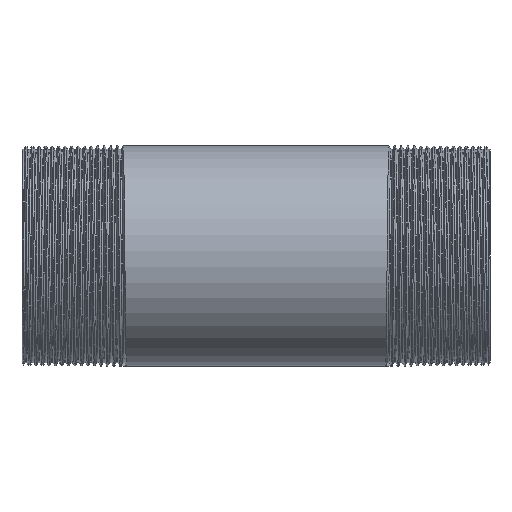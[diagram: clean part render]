
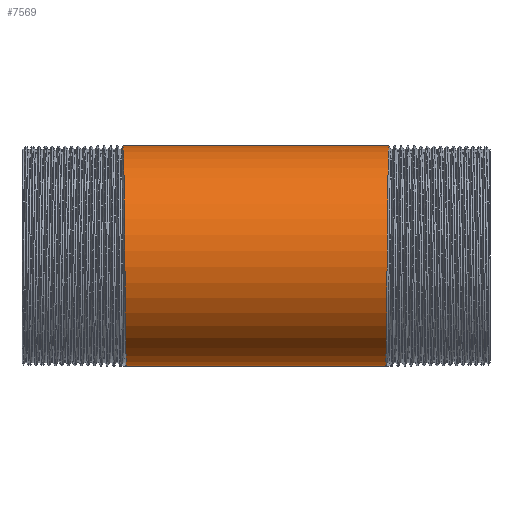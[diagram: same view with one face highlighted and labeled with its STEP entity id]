
A CAD part, front view. The second image highlights one B-rep face of the part: STEP entity #7569.
In plain terms, the highlighted cylindrical face has radius 21.2 mm (diameter 42.4 mm), a partial arc.
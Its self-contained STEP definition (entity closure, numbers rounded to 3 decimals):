
#39 = EDGE_CURVE ( 'NONE', #2132, #5383, #5080, .T. ) ;
#184 = CARTESIAN_POINT ( 'NONE',  ( -25.141, -21.2, -8.781 ) ) ;
#560 = VECTOR ( 'NONE', #9382, 1000. ) ;
#780 = CARTESIAN_POINT ( 'NONE',  ( -149.494, 0., 0. ) ) ;
#906 = CARTESIAN_POINT ( 'NONE',  ( 25.453, -8.781, 21.2 ) ) ;
#982 = CARTESIAN_POINT ( 'NONE',  ( -25.297, -21.2, 8.781 ) ) ;
#1418 = EDGE_CURVE ( 'NONE', #13749, #9877, #3118, .T. ) ;
#2101 = CARTESIAN_POINT ( 'NONE',  ( 25.375, -14.991, 14.991 ) ) ;
#2132 = VERTEX_POINT ( 'NONE', #13366 ) ;
#2247 = CARTESIAN_POINT ( 'NONE',  ( -24.984, -8.781, -21.2 ) ) ;
#2776 = EDGE_LOOP ( 'NONE', ( #3206, #8333, #9335, #13189 ) ) ;
#2883 = CARTESIAN_POINT ( 'NONE',  ( 24.984, -8.781, -21.2 ) ) ;
#3095 = CARTESIAN_POINT ( 'NONE',  ( -149.494, 0., -21.2 ) ) ;
#3118 = LINE ( 'NONE', #12703, #10908 ) ;
#3163 = CARTESIAN_POINT ( 'NONE',  ( -25.219, -21.2, 0. ) ) ;
#3206 = ORIENTED_EDGE ( 'NONE', *, *, #39, .F. ) ;
#4012 = CARTESIAN_POINT ( 'NONE',  ( 25.219, -21.2, 0. ) ) ;
#4352 = AXIS2_PLACEMENT_3D ( 'NONE', #780, #10306, #6074 ) ;
#4431 = CARTESIAN_POINT ( 'NONE',  ( -25.531, 0., 21.2 ) ) ;
#5080 = LINE ( 'NONE', #3095, #560 ) ;
#5200 = EDGE_CURVE ( 'NONE', #5383, #9877, #12156, .T. ) ;
#5320 = CARTESIAN_POINT ( 'NONE',  ( 25.531, 0., 21.2 ) ) ;
#5383 = VERTEX_POINT ( 'NONE', #6740 ) ;
#6074 = DIRECTION ( 'NONE',  ( 0., 0., 1. ) ) ;
#6740 = CARTESIAN_POINT ( 'NONE',  ( -24.906, 0., -21.2 ) ) ;
#7203 = CARTESIAN_POINT ( 'NONE',  ( 25.531, 0., 21.2 ) ) ;
#7473 = CARTESIAN_POINT ( 'NONE',  ( 25.063, -14.991, -14.991 ) ) ;
#7569 = ADVANCED_FACE ( 'NONE', ( #10446 ), #11706, .T. ) ;
#8333 = ORIENTED_EDGE ( 'NONE', *, *, #11949, .T. ) ;
#8485 = DIRECTION ( 'NONE',  ( -1., 0., 0. ) ) ;
#9335 = ORIENTED_EDGE ( 'NONE', *, *, #1418, .T. ) ;
#9382 = DIRECTION ( 'NONE',  ( -1., 0., 0. ) ) ;
#9877 = VERTEX_POINT ( 'NONE', #10527 ) ;
#10181 =( BOUNDED_CURVE ( )  B_SPLINE_CURVE ( 2, ( #12609, #2883, #7473, #10573, #4012, #11763, #2101, #906, #7203 ),
 .UNSPECIFIED., .F., .T. ) 
 B_SPLINE_CURVE_WITH_KNOTS ( ( 3, 2, 2, 2, 3 ),
 ( 0., 0.006, 0.013, 0.019, 0.025 ),
 .UNSPECIFIED. ) 
 CURVE ( )  GEOMETRIC_REPRESENTATION_ITEM ( )  RATIONAL_B_SPLINE_CURVE ( ( 1., 0.924, 1., 0.924, 1., 0.924, 1., 0.924, 1. ) ) 
 REPRESENTATION_ITEM ( '' )  );
#10306 = DIRECTION ( 'NONE',  ( -1., 0., 0. ) ) ;
#10446 = FACE_OUTER_BOUND ( 'NONE', #2776, .T. ) ;
#10527 = CARTESIAN_POINT ( 'NONE',  ( -25.531, 0., 21.2 ) ) ;
#10573 = CARTESIAN_POINT ( 'NONE',  ( 25.141, -21.2, -8.781 ) ) ;
#10855 = CARTESIAN_POINT ( 'NONE',  ( -24.906, 0., -21.2 ) ) ;
#10908 = VECTOR ( 'NONE', #8485, 1000. ) ;
#11706 = CYLINDRICAL_SURFACE ( 'NONE', #4352, 21.2 ) ;
#11763 = CARTESIAN_POINT ( 'NONE',  ( 25.297, -21.2, 8.781 ) ) ;
#11842 = CARTESIAN_POINT ( 'NONE',  ( -25.453, -8.781, 21.2 ) ) ;
#11912 = CARTESIAN_POINT ( 'NONE',  ( -25.063, -14.991, -14.991 ) ) ;
#11949 = EDGE_CURVE ( 'NONE', #2132, #13749, #10181, .T. ) ;
#12156 =( BOUNDED_CURVE ( )  B_SPLINE_CURVE ( 2, ( #10855, #2247, #11912, #184, #3163, #982, #13882, #11842, #4431 ),
 .UNSPECIFIED., .F., .F. ) 
 B_SPLINE_CURVE_WITH_KNOTS ( ( 3, 2, 2, 2, 3 ),
 ( 0., 0.006, 0.013, 0.019, 0.025 ),
 .UNSPECIFIED. ) 
 CURVE ( )  GEOMETRIC_REPRESENTATION_ITEM ( )  RATIONAL_B_SPLINE_CURVE ( ( 1., 0.924, 1., 0.924, 1., 0.924, 1., 0.924, 1. ) ) 
 REPRESENTATION_ITEM ( '' )  );
#12609 = CARTESIAN_POINT ( 'NONE',  ( 24.906, 0., -21.2 ) ) ;
#12703 = CARTESIAN_POINT ( 'NONE',  ( -149.494, 0., 21.2 ) ) ;
#13189 = ORIENTED_EDGE ( 'NONE', *, *, #5200, .F. ) ;
#13366 = CARTESIAN_POINT ( 'NONE',  ( 24.906, 0., -21.2 ) ) ;
#13749 = VERTEX_POINT ( 'NONE', #5320 ) ;
#13882 = CARTESIAN_POINT ( 'NONE',  ( -25.375, -14.991, 14.991 ) ) ;
